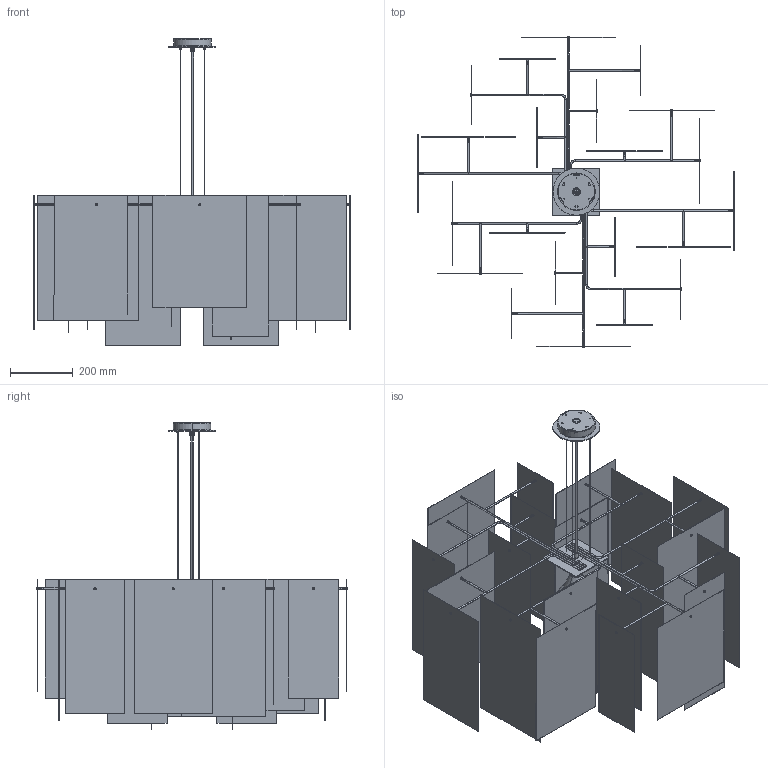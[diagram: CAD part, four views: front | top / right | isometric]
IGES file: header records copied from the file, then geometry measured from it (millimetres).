
Global section: file name: No Iges File Name specified; native system: AutoDesk Inventor R11.0; preprocessor: AutoDesk Inventor Iges Exporter R11.0; author: No Author specified; organization: No Organization specified; date: 20150817.120521; units: millimetre
Bounding box: 1013 x 991 x 981.27 mm (x, y, z)
Volume: 3869807.5 mm3; surface area: 4721941.6 mm2
Topology: 72 solids, 72 shells, 1755 faces, 4390 edges, 2804 vertices
Faces by surface type: plane 680, cylinder 438, bspline 244, cone 198, revolution 119, torus 74, sphere 2
